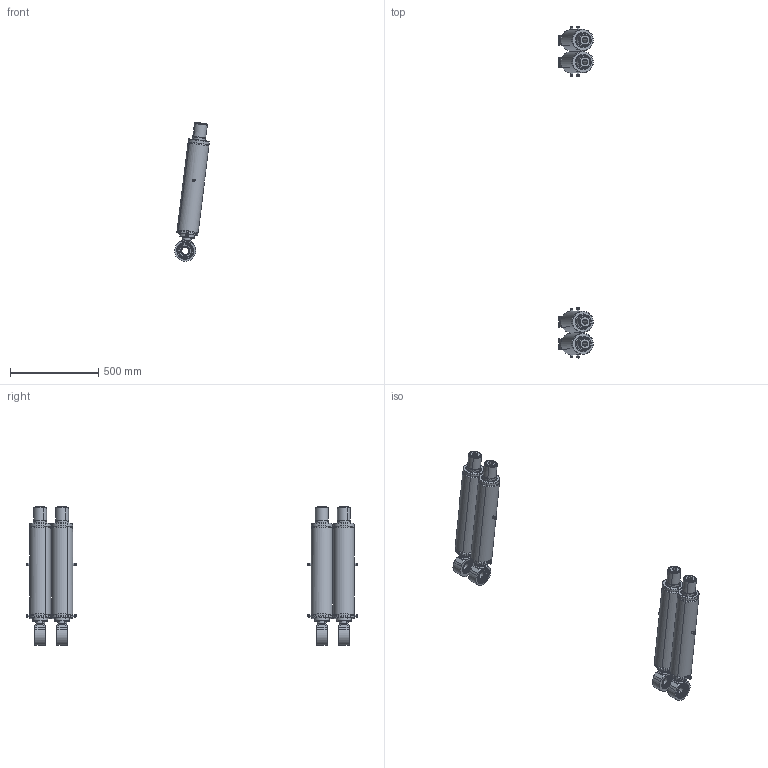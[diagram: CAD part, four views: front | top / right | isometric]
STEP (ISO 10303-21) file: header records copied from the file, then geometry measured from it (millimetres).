
FILE_DESCRIPTION(('CATIA V5 STEP Exchange','CAx-IF Rec.Pracs.--- Model Styling and Organization---1.2---2011-12-15','CAx-IF Rec.Pracs.--- Geometric and Assembly Validation Properties ---3.1---2011-10-19'),'2;1');
FILE_NAME('Z:\ROBOT\CATIA06\products\MC1000DL\Light_model\Step\130_J2Balancer_Pull_Case_MC1000DL-02.stp','2016-12-26T04:03:24+00:00',('none'),('none'),'Version 5-6 Release 2012','CATIA V5 STEP AP214','none');
FILE_SCHEMA(('AUTOMOTIVE_DESIGN { 1 0 10303 214 1 1 1 1 }'));
Length unit declared in the file: millimetre
Products named in the file (1): 130_J2Balancer_Pull_Case_MC1000DL-02
Bounding box: 197.19 x 1885 x 788.34 mm (x, y, z)
Volume: 27195625.3 mm3; surface area: 1620081.8 mm2
Topology: 16 solids, 20 shells, 1056 faces, 2344 edges, 1436 vertices
Faces by surface type: plane 336, cylinder 276, cone 224, torus 204, sphere 16
Entity records: 27815 total; most frequent: CARTESIAN_POINT 6094, ORIENTED_EDGE 4688, DIRECTION 3340, EDGE_CURVE 2344, AXIS2_PLACEMENT_3D 1925, VERTEX_POINT 1436, CIRCLE 1328, EDGE_LOOP 1204
